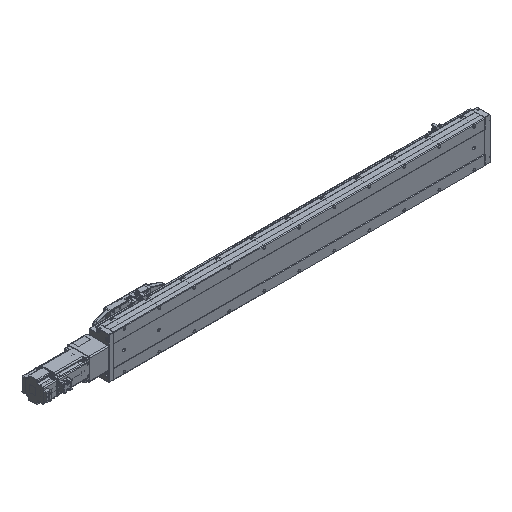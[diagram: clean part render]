
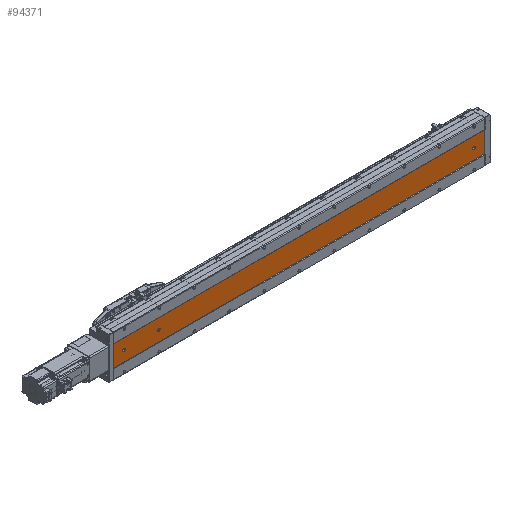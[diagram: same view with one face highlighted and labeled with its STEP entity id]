
A CAD part, isometric view. The second image highlights one B-rep face of the part: STEP entity #94371.
In plain terms, the highlighted planar face has unit normal (0, -1, 0).
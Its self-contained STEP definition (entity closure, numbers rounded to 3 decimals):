
#711 = CARTESIAN_POINT ( 'NONE',  ( -39.892, -52.848, 1027.5 ) ) ;
#4242 = CARTESIAN_POINT ( 'NONE',  ( -36.392, -52.848, 32. ) ) ;
#4456 = VERTEX_POINT ( 'NONE', #24564 ) ;
#6391 = VERTEX_POINT ( 'NONE', #49909 ) ;
#7245 = VERTEX_POINT ( 'NONE', #46869 ) ;
#7838 = DIRECTION ( 'NONE',  ( 0., 1., 0. ) ) ;
#8372 = DIRECTION ( 'NONE',  ( 0., 1., 0. ) ) ;
#8556 = CARTESIAN_POINT ( 'NONE',  ( -39.892, -52.848, 1031. ) ) ;
#9441 = VECTOR ( 'NONE', #43520, 1000. ) ;
#10318 = VECTOR ( 'NONE', #53494, 1000. ) ;
#11985 = FACE_BOUND ( 'NONE', #42900, .T. ) ;
#12319 = EDGE_LOOP ( 'NONE', ( #51449, #41228, #17090, #55672 ) ) ;
#13317 = CARTESIAN_POINT ( 'NONE',  ( -69.892, -52.848, 0. ) ) ;
#13968 = CIRCLE ( 'NONE', #22281, 3.5 ) ;
#14110 = DIRECTION ( 'NONE',  ( 0., 0., 1. ) ) ;
#14544 = DIRECTION ( 'NONE',  ( 0., 0., 1. ) ) ;
#15800 = CARTESIAN_POINT ( 'NONE',  ( -69.892, -52.848, 1061. ) ) ;
#15994 = DIRECTION ( 'NONE',  ( 0., 0., 1. ) ) ;
#16968 = EDGE_CURVE ( 'NONE', #87396, #4456, #72646, .T. ) ;
#17090 = ORIENTED_EDGE ( 'NONE', *, *, #40198, .F. ) ;
#17132 = EDGE_CURVE ( 'NONE', #6391, #35809, #26806, .T. ) ;
#20464 = CIRCLE ( 'NONE', #37464, 3.5 ) ;
#20749 = CARTESIAN_POINT ( 'NONE',  ( -39.892, -52.848, 934.5 ) ) ;
#21516 = CARTESIAN_POINT ( 'NONE',  ( -39.892, -52.848, 32. ) ) ;
#22122 = AXIS2_PLACEMENT_3D ( 'NONE', #21516, #35660, #14110 ) ;
#22281 = AXIS2_PLACEMENT_3D ( 'NONE', #88660, #8372, #74009 ) ;
#23543 = DIRECTION ( 'NONE',  ( 0., 0., 1. ) ) ;
#23574 = DIRECTION ( 'NONE',  ( 0., 0., 1. ) ) ;
#24340 = CARTESIAN_POINT ( 'NONE',  ( -69.892, -52.848, 1061. ) ) ;
#24564 = CARTESIAN_POINT ( 'NONE',  ( -9.892, -52.848, 0. ) ) ;
#24586 = EDGE_CURVE ( 'NONE', #73896, #7245, #70132, .T. ) ;
#26728 = ORIENTED_EDGE ( 'NONE', *, *, #36010, .T. ) ;
#26806 = CIRCLE ( 'NONE', #22122, 3.5 ) ;
#27126 = AXIS2_PLACEMENT_3D ( 'NONE', #90113, #75128, #52845 ) ;
#27578 = CIRCLE ( 'NONE', #27126, 3.5 ) ;
#28304 = CARTESIAN_POINT ( 'NONE',  ( -43.392, -52.848, 30. ) ) ;
#29563 = ORIENTED_EDGE ( 'NONE', *, *, #65609, .T. ) ;
#31223 = AXIS2_PLACEMENT_3D ( 'NONE', #8556, #45099, #23574 ) ;
#31307 = CARTESIAN_POINT ( 'NONE',  ( -39.892, -52.848, 931. ) ) ;
#31866 = VECTOR ( 'NONE', #41868, 1000. ) ;
#32433 = ORIENTED_EDGE ( 'NONE', *, *, #90861, .T. ) ;
#32589 = FACE_OUTER_BOUND ( 'NONE', #12319, .T. ) ;
#34843 = EDGE_LOOP ( 'NONE', ( #89338, #47422 ) ) ;
#35660 = DIRECTION ( 'NONE',  ( 0., 1., 0. ) ) ;
#35809 = VERTEX_POINT ( 'NONE', #4242 ) ;
#35949 = CARTESIAN_POINT ( 'NONE',  ( -9.892, -52.848, 1061. ) ) ;
#36010 = EDGE_CURVE ( 'NONE', #88180, #6391, #55051, .T. ) ;
#36159 = CIRCLE ( 'NONE', #31223, 3.5 ) ;
#37464 = AXIS2_PLACEMENT_3D ( 'NONE', #31307, #53760, #82730 ) ;
#37724 = VERTEX_POINT ( 'NONE', #711 ) ;
#38642 = CARTESIAN_POINT ( 'NONE',  ( -39.892, -52.848, 927.5 ) ) ;
#40198 = EDGE_CURVE ( 'NONE', #73896, #87396, #62266, .T. ) ;
#40627 = VECTOR ( 'NONE', #49120, 1000. ) ;
#41228 = ORIENTED_EDGE ( 'NONE', *, *, #16968, .F. ) ;
#41868 = DIRECTION ( 'NONE',  ( 1., 0., 0. ) ) ;
#42900 = EDGE_LOOP ( 'NONE', ( #58600, #59240 ) ) ;
#43520 = DIRECTION ( 'NONE',  ( 0., 0., -1. ) ) ;
#45067 = CARTESIAN_POINT ( 'NONE',  ( -69.892, -52.848, 1061. ) ) ;
#45099 = DIRECTION ( 'NONE',  ( 0., 1., 0. ) ) ;
#45206 = CARTESIAN_POINT ( 'NONE',  ( -39.892, -52.848, 931. ) ) ;
#46031 = VERTEX_POINT ( 'NONE', #63524 ) ;
#46151 = VECTOR ( 'NONE', #75977, 1000. ) ;
#46869 = CARTESIAN_POINT ( 'NONE',  ( -69.892, -52.848, 0. ) ) ;
#47422 = ORIENTED_EDGE ( 'NONE', *, *, #68101, .T. ) ;
#49120 = DIRECTION ( 'NONE',  ( 0., 0., -1. ) ) ;
#49909 = CARTESIAN_POINT ( 'NONE',  ( -43.392, -52.848, 32. ) ) ;
#51449 = ORIENTED_EDGE ( 'NONE', *, *, #56079, .T. ) ;
#52125 = FACE_BOUND ( 'NONE', #34843, .T. ) ;
#52845 = DIRECTION ( 'NONE',  ( 0., 0., 1. ) ) ;
#53103 = LINE ( 'NONE', #68608, #46151 ) ;
#53494 = DIRECTION ( 'NONE',  ( 0., 0., 1. ) ) ;
#53548 = EDGE_LOOP ( 'NONE', ( #26728, #86831, #29563, #32433, #60183 ) ) ;
#53708 = AXIS2_PLACEMENT_3D ( 'NONE', #45206, #81903, #15994 ) ;
#53760 = DIRECTION ( 'NONE',  ( 0., 1., 0. ) ) ;
#53923 = CARTESIAN_POINT ( 'NONE',  ( -39.892, -52.848, 26.5 ) ) ;
#55051 = LINE ( 'NONE', #83103, #10318 ) ;
#55672 = ORIENTED_EDGE ( 'NONE', *, *, #24586, .T. ) ;
#55784 = EDGE_CURVE ( 'NONE', #93977, #77482, #20464, .T. ) ;
#56079 = EDGE_CURVE ( 'NONE', #7245, #4456, #57130, .T. ) ;
#57130 = LINE ( 'NONE', #13317, #31866 ) ;
#58600 = ORIENTED_EDGE ( 'NONE', *, *, #62072, .T. ) ;
#58656 = AXIS2_PLACEMENT_3D ( 'NONE', #67057, #67371, #23543 ) ;
#59240 = ORIENTED_EDGE ( 'NONE', *, *, #55784, .T. ) ;
#59295 = AXIS2_PLACEMENT_3D ( 'NONE', #15800, #7838, #14544 ) ;
#60152 = CARTESIAN_POINT ( 'NONE',  ( -39.892, -52.848, 1034.5 ) ) ;
#60183 = ORIENTED_EDGE ( 'NONE', *, *, #65974, .T. ) ;
#61238 = FACE_BOUND ( 'NONE', #53548, .T. ) ;
#62072 = EDGE_CURVE ( 'NONE', #77482, #93977, #71814, .T. ) ;
#62266 = LINE ( 'NONE', #24340, #88569 ) ;
#63524 = CARTESIAN_POINT ( 'NONE',  ( -36.392, -52.848, 30. ) ) ;
#63573 = EDGE_CURVE ( 'NONE', #37724, #71255, #36159, .T. ) ;
#63779 = CARTESIAN_POINT ( 'NONE',  ( -9.892, -52.848, 1061. ) ) ;
#65539 = CARTESIAN_POINT ( 'NONE',  ( -69.892, -52.848, 1061. ) ) ;
#65609 = EDGE_CURVE ( 'NONE', #35809, #46031, #53103, .T. ) ;
#65974 = EDGE_CURVE ( 'NONE', #81111, #88180, #13968, .T. ) ;
#67057 = CARTESIAN_POINT ( 'NONE',  ( -39.892, -52.848, 1031. ) ) ;
#67371 = DIRECTION ( 'NONE',  ( 0., 1., 0. ) ) ;
#68101 = EDGE_CURVE ( 'NONE', #71255, #37724, #90155, .T. ) ;
#68608 = CARTESIAN_POINT ( 'NONE',  ( -36.392, -52.848, 1061. ) ) ;
#70132 = LINE ( 'NONE', #65539, #9441 ) ;
#71255 = VERTEX_POINT ( 'NONE', #60152 ) ;
#71814 = CIRCLE ( 'NONE', #53708, 3.5 ) ;
#72646 = LINE ( 'NONE', #63779, #40627 ) ;
#73133 = PLANE ( 'NONE',  #59295 ) ;
#73896 = VERTEX_POINT ( 'NONE', #45067 ) ;
#74009 = DIRECTION ( 'NONE',  ( 0., 0., 1. ) ) ;
#75128 = DIRECTION ( 'NONE',  ( 0., 1., 0. ) ) ;
#75977 = DIRECTION ( 'NONE',  ( 0., 0., -1. ) ) ;
#77482 = VERTEX_POINT ( 'NONE', #38642 ) ;
#81111 = VERTEX_POINT ( 'NONE', #53923 ) ;
#81903 = DIRECTION ( 'NONE',  ( 0., 1., 0. ) ) ;
#82545 = DIRECTION ( 'NONE',  ( 1., 0., 0. ) ) ;
#82730 = DIRECTION ( 'NONE',  ( 0., 0., 1. ) ) ;
#83103 = CARTESIAN_POINT ( 'NONE',  ( -43.392, -52.848, 1061. ) ) ;
#86831 = ORIENTED_EDGE ( 'NONE', *, *, #17132, .T. ) ;
#87396 = VERTEX_POINT ( 'NONE', #35949 ) ;
#88180 = VERTEX_POINT ( 'NONE', #28304 ) ;
#88569 = VECTOR ( 'NONE', #82545, 1000. ) ;
#88660 = CARTESIAN_POINT ( 'NONE',  ( -39.892, -52.848, 30. ) ) ;
#89338 = ORIENTED_EDGE ( 'NONE', *, *, #63573, .T. ) ;
#90113 = CARTESIAN_POINT ( 'NONE',  ( -39.892, -52.848, 30. ) ) ;
#90155 = CIRCLE ( 'NONE', #58656, 3.5 ) ;
#90861 = EDGE_CURVE ( 'NONE', #46031, #81111, #27578, .T. ) ;
#93977 = VERTEX_POINT ( 'NONE', #20749 ) ;
#94371 = ADVANCED_FACE ( 'NONE', ( #61238, #11985, #52125, #32589 ), #73133, .F. ) ;
